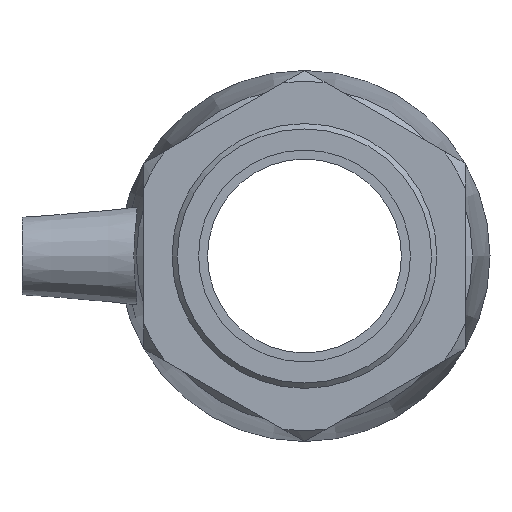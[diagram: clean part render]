
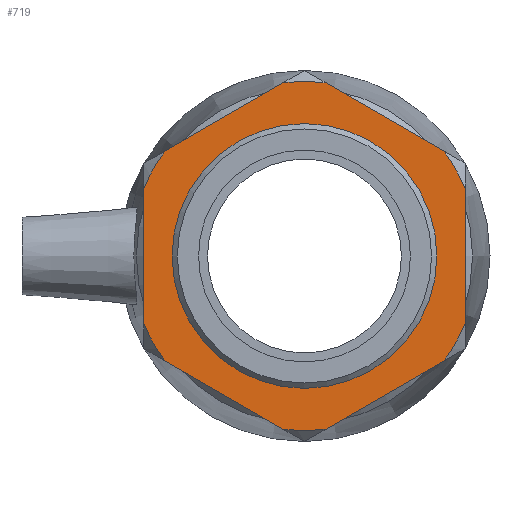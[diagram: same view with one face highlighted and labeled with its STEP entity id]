
A CAD part, left-side view. The second image highlights one B-rep face of the part: STEP entity #719.
In plain terms, the highlighted planar face has unit normal (-1, 0, 0).
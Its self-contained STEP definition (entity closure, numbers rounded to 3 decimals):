
#38=FACE_BOUND('',#220,.T.);
#65=CIRCLE('',#759,31.49);
#66=CIRCLE('',#761,31.49);
#67=CIRCLE('',#763,31.49);
#68=CIRCLE('',#765,31.49);
#69=CIRCLE('',#767,31.49);
#70=CIRCLE('',#769,31.49);
#86=CIRCLE('',#799,23.902);
#156=FACE_OUTER_BOUND('',#219,.T.);
#219=EDGE_LOOP('',(#606,#607,#608,#609,#610,#611,#612,#613,#614,#615,#616,
#617));
#220=EDGE_LOOP('',(#618));
#275=LINE('',#1077,#293);
#279=LINE('',#1101,#297);
#285=LINE('',#1141,#303);
#286=LINE('',#1148,#304);
#289=LINE('',#1170,#307);
#292=LINE('',#1201,#310);
#293=VECTOR('',#855,24.489);
#297=VECTOR('',#861,24.489);
#303=VECTOR('',#869,24.489);
#304=VECTOR('',#872,24.489);
#307=VECTOR('',#877,24.489);
#310=VECTOR('',#882,24.489);
#335=VERTEX_POINT('',#1071);
#337=VERTEX_POINT('',#1076);
#343=VERTEX_POINT('',#1096);
#344=VERTEX_POINT('',#1100);
#350=VERTEX_POINT('',#1119);
#356=VERTEX_POINT('',#1137);
#357=VERTEX_POINT('',#1143);
#358=VERTEX_POINT('',#1147);
#363=VERTEX_POINT('',#1165);
#364=VERTEX_POINT('',#1169);
#367=VERTEX_POINT('',#1184);
#370=VERTEX_POINT('',#1197);
#382=VERTEX_POINT('',#1322);
#407=EDGE_CURVE('',#337,#335,#275,.T.);
#415=EDGE_CURVE('',#344,#343,#279,.T.);
#428=EDGE_CURVE('',#350,#356,#285,.T.);
#430=EDGE_CURVE('',#358,#357,#286,.T.);
#437=EDGE_CURVE('',#364,#363,#289,.T.);
#447=EDGE_CURVE('',#367,#370,#292,.T.);
#448=EDGE_CURVE('',#358,#363,#65,.T.);
#449=EDGE_CURVE('',#364,#356,#66,.T.);
#450=EDGE_CURVE('',#350,#370,#67,.T.);
#451=EDGE_CURVE('',#344,#357,#68,.T.);
#452=EDGE_CURVE('',#337,#343,#69,.T.);
#453=EDGE_CURVE('',#367,#335,#70,.T.);
#471=EDGE_CURVE('',#382,#382,#86,.T.);
#606=ORIENTED_EDGE('',*,*,#407,.T.);
#607=ORIENTED_EDGE('',*,*,#453,.F.);
#608=ORIENTED_EDGE('',*,*,#447,.T.);
#609=ORIENTED_EDGE('',*,*,#450,.F.);
#610=ORIENTED_EDGE('',*,*,#428,.T.);
#611=ORIENTED_EDGE('',*,*,#449,.F.);
#612=ORIENTED_EDGE('',*,*,#437,.T.);
#613=ORIENTED_EDGE('',*,*,#448,.F.);
#614=ORIENTED_EDGE('',*,*,#430,.T.);
#615=ORIENTED_EDGE('',*,*,#451,.F.);
#616=ORIENTED_EDGE('',*,*,#415,.T.);
#617=ORIENTED_EDGE('',*,*,#452,.F.);
#618=ORIENTED_EDGE('',*,*,#471,.T.);
#682=PLANE('',#798);
#719=ADVANCED_FACE('',(#156,#38),#682,.T.);
#759=AXIS2_PLACEMENT_3D('',#1203,#885,#886);
#761=AXIS2_PLACEMENT_3D('',#1205,#889,#890);
#763=AXIS2_PLACEMENT_3D('',#1207,#893,#894);
#765=AXIS2_PLACEMENT_3D('',#1209,#897,#898);
#767=AXIS2_PLACEMENT_3D('',#1211,#901,#902);
#769=AXIS2_PLACEMENT_3D('',#1213,#905,#906);
#798=AXIS2_PLACEMENT_3D('',#1321,#963,#964);
#799=AXIS2_PLACEMENT_3D('',#1323,#965,#966);
#855=DIRECTION('',(0.,0.866,0.5));
#861=DIRECTION('',(0.,0.,1.));
#869=DIRECTION('',(0.,0.,-1.));
#872=DIRECTION('',(0.,-0.866,0.5));
#877=DIRECTION('',(0.,-0.866,-0.5));
#882=DIRECTION('',(0.,0.866,-0.5));
#885=DIRECTION('center_axis',(1.,0.,0.));
#886=DIRECTION('ref_axis',(0.,-1.,0.));
#889=DIRECTION('center_axis',(1.,0.,0.));
#890=DIRECTION('ref_axis',(0.,-1.,0.));
#893=DIRECTION('center_axis',(1.,0.,0.));
#894=DIRECTION('ref_axis',(0.,-1.,0.));
#897=DIRECTION('center_axis',(1.,0.,0.));
#898=DIRECTION('ref_axis',(0.,-1.,0.));
#901=DIRECTION('center_axis',(1.,0.,0.));
#902=DIRECTION('ref_axis',(0.,-1.,0.));
#905=DIRECTION('center_axis',(1.,0.,0.));
#906=DIRECTION('ref_axis',(0.,-1.,0.));
#963=DIRECTION('center_axis',(-1.,0.,0.));
#964=DIRECTION('ref_axis',(0.,0.,1.));
#965=DIRECTION('center_axis',(1.,0.,0.));
#966=DIRECTION('ref_axis',(0.,0.,-1.));
#1071=CARTESIAN_POINT('',(-66.35,-3.902,31.247));
#1076=CARTESIAN_POINT('',(-66.35,-25.11,19.003));
#1077=CARTESIAN_POINT('',(-66.35,5.31,36.565));
#1096=CARTESIAN_POINT('',(-66.35,-29.012,12.245));
#1100=CARTESIAN_POINT('',(-66.35,-29.012,-12.245));
#1101=CARTESIAN_POINT('',(-66.35,-29.012,8.375));
#1119=CARTESIAN_POINT('',(-66.35,29.012,12.245));
#1137=CARTESIAN_POINT('',(-66.35,29.012,-12.245));
#1141=CARTESIAN_POINT('',(-66.35,29.012,-8.375));
#1143=CARTESIAN_POINT('',(-66.35,-25.11,-19.003));
#1147=CARTESIAN_POINT('',(-66.35,-3.902,-31.247));
#1148=CARTESIAN_POINT('',(-66.35,-9.196,-28.19));
#1165=CARTESIAN_POINT('',(-66.35,3.902,-31.247));
#1169=CARTESIAN_POINT('',(-66.35,25.11,-19.003));
#1170=CARTESIAN_POINT('',(-66.35,19.815,-22.06));
#1184=CARTESIAN_POINT('',(-66.35,3.902,31.247));
#1197=CARTESIAN_POINT('',(-66.35,25.11,19.003));
#1201=CARTESIAN_POINT('',(-66.35,34.321,13.685));
#1203=CARTESIAN_POINT('Origin',(-66.35,0.,0.));
#1205=CARTESIAN_POINT('Origin',(-66.35,0.,0.));
#1207=CARTESIAN_POINT('Origin',(-66.35,0.,0.));
#1209=CARTESIAN_POINT('Origin',(-66.35,0.,0.));
#1211=CARTESIAN_POINT('Origin',(-66.35,0.,0.));
#1213=CARTESIAN_POINT('Origin',(-66.35,0.,0.));
#1321=CARTESIAN_POINT('Origin',(-66.35,33.5,0.));
#1322=CARTESIAN_POINT('',(-66.35,23.902,0.));
#1323=CARTESIAN_POINT('Origin',(-66.35,0.,0.));
